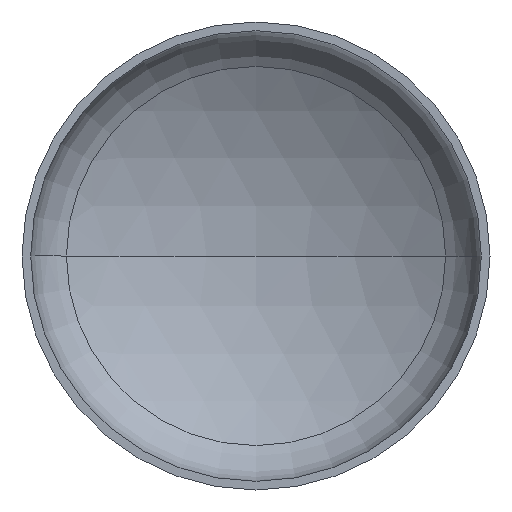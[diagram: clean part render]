
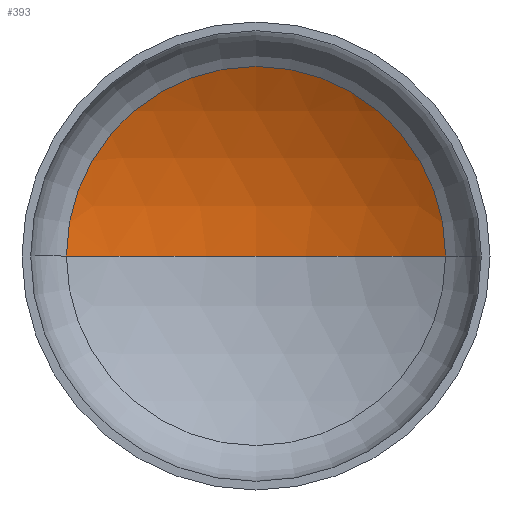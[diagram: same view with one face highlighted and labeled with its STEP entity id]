
A CAD part, front view. The second image highlights one B-rep face of the part: STEP entity #393.
In plain terms, the highlighted spherical face has radius 1760 mm.
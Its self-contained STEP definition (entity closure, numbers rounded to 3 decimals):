
#10 = EDGE_CURVE ( 'NONE', #32, #212, #407, .T. ) ;
#19 = EDGE_LOOP ( 'NONE', ( #79, #154, #52 ) ) ;
#32 = VERTEX_POINT ( 'NONE', #210 ) ;
#34 = EDGE_CURVE ( 'NONE', #212, #365, #397, .T. ) ;
#40 = AXIS2_PLACEMENT_3D ( 'NONE', #94, #96, #279 ) ;
#52 = ORIENTED_EDGE ( 'NONE', *, *, #34, .T. ) ;
#65 = AXIS2_PLACEMENT_3D ( 'NONE', #126, #206, #386 ) ;
#77 = FACE_OUTER_BOUND ( 'NONE', #19, .T. ) ;
#79 = ORIENTED_EDGE ( 'NONE', *, *, #399, .F. ) ;
#82 = CARTESIAN_POINT ( 'NONE',  ( -891.155, 423.194, 0. ) ) ;
#94 = CARTESIAN_POINT ( 'NONE',  ( 0., -1094.516, 0. ) ) ;
#96 = DIRECTION ( 'NONE',  ( 0., 0., 1. ) ) ;
#126 = CARTESIAN_POINT ( 'NONE',  ( 0., -1094.516, 0. ) ) ;
#150 = CARTESIAN_POINT ( 'NONE',  ( 891.155, 423.194, 0. ) ) ;
#154 = ORIENTED_EDGE ( 'NONE', *, *, #10, .T. ) ;
#182 = CIRCLE ( 'NONE', #40, 1760. ) ;
#206 = DIRECTION ( 'NONE',  ( 0., 0., -1. ) ) ;
#210 = CARTESIAN_POINT ( 'NONE',  ( 0., 665.484, 0. ) ) ;
#212 = VERTEX_POINT ( 'NONE', #150 ) ;
#223 = AXIS2_PLACEMENT_3D ( 'NONE', #377, #250, #228 ) ;
#228 = DIRECTION ( 'NONE',  ( -1., 0., 0. ) ) ;
#250 = DIRECTION ( 'NONE',  ( 0., 0., -1. ) ) ;
#253 = AXIS2_PLACEMENT_3D ( 'NONE', #328, #326, #325 ) ;
#279 = DIRECTION ( 'NONE',  ( 1., 0., 0. ) ) ;
#325 = DIRECTION ( 'NONE',  ( 1., 0., 0. ) ) ;
#326 = DIRECTION ( 'NONE',  ( 0., -1., 0. ) ) ;
#328 = CARTESIAN_POINT ( 'NONE',  ( 0., 423.194, 0. ) ) ;
#331 = SPHERICAL_SURFACE ( 'NONE', #65, 1760. ) ;
#365 = VERTEX_POINT ( 'NONE', #82 ) ;
#377 = CARTESIAN_POINT ( 'NONE',  ( 0., -1094.516, 0. ) ) ;
#386 = DIRECTION ( 'NONE',  ( -1., 0., 0. ) ) ;
#393 = ADVANCED_FACE ( 'NONE', ( #77 ), #331, .F. ) ;
#397 = CIRCLE ( 'NONE', #253, 891.155 ) ;
#399 = EDGE_CURVE ( 'NONE', #32, #365, #182, .T. ) ;
#407 = CIRCLE ( 'NONE', #223, 1760. ) ;
